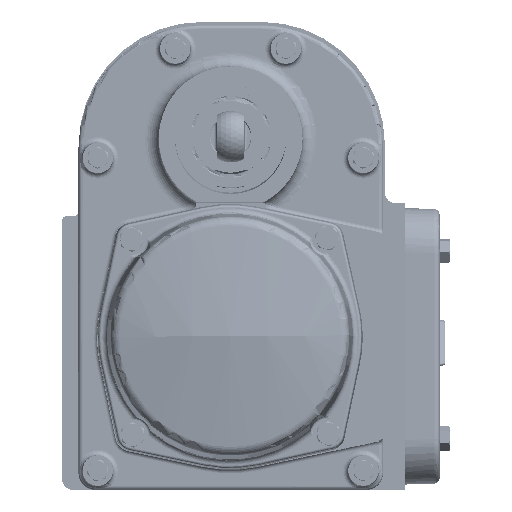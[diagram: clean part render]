
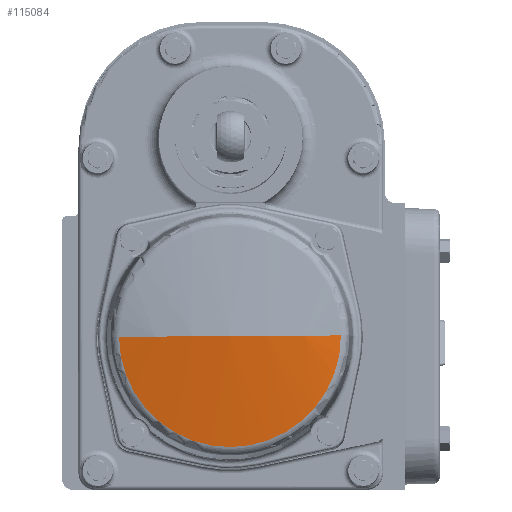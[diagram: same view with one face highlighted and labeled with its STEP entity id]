
A CAD part, top view. The second image highlights one B-rep face of the part: STEP entity #115084.
In plain terms, the highlighted spherical face has radius 279.4 mm.
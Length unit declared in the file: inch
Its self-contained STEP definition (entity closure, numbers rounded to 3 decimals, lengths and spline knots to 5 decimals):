
#1336 = CIRCLE ( 'NONE', #172869, 2.50549 ) ;
#1339 = CIRCLE ( 'NONE', #172872, 11. ) ;
#1341 = CIRCLE ( 'NONE', #172873, 11. ) ;
#4679 = CARTESIAN_POINT ( 'NONE',  ( 0.73401, -1.05759, 13.43811 ) ) ;
#4680 = DIRECTION ( 'NONE',  ( 0., 0., 1. ) ) ;
#4681 = DIRECTION ( 'NONE',  ( -1., -0.006, 0. ) ) ;
#4682 = CARTESIAN_POINT ( 'NONE',  ( 0.73401, -1.05759, 2.72725 ) ) ;
#4683 = DIRECTION ( 'NONE',  ( 0.006, -1., 0. ) ) ;
#4684 = DIRECTION ( 'NONE',  ( 1., 0.006, 0. ) ) ;
#4685 = CARTESIAN_POINT ( 'NONE',  ( 0.73401, -1.05759, 2.72725 ) ) ;
#4686 = DIRECTION ( 'NONE',  ( -0.006, 1., 0. ) ) ;
#4687 = DIRECTION ( 'NONE',  ( -1., -0.006, 0. ) ) ;
#52940 = FACE_OUTER_BOUND ( 'NONE', #118368, .T. ) ;
#52941 = SPHERICAL_SURFACE ( 'NONE', #160990, 11. ) ;
#74878 = CARTESIAN_POINT ( 'NONE',  ( 0.73401, -1.05759, 2.72725 ) ) ;
#74879 = DIRECTION ( 'NONE',  ( 0.006, -1., 0. ) ) ;
#74880 = DIRECTION ( 'NONE',  ( -1., -0.006, 0. ) ) ;
#80248 = EDGE_CURVE ( 'NONE', #104491, #104492, #1336, .T. ) ;
#80252 = EDGE_CURVE ( 'NONE', #104492, #104493, #1339, .T. ) ;
#80256 = EDGE_CURVE ( 'NONE', #104491, #104493, #1341, .T. ) ;
#95651 = ORIENTED_EDGE ( 'NONE', *, *, #80248, .T. ) ;
#95652 = ORIENTED_EDGE ( 'NONE', *, *, #80252, .T. ) ;
#95653 = ORIENTED_EDGE ( 'NONE', *, *, #80256, .F. ) ;
#104491 = VERTEX_POINT ( 'NONE', #106078 ) ;
#104492 = VERTEX_POINT ( 'NONE', #106081 ) ;
#104493 = VERTEX_POINT ( 'NONE', #106083 ) ;
#106078 = CARTESIAN_POINT ( 'NONE',  ( -1.77143, -1.07309, 13.43811 ) ) ;
#106081 = CARTESIAN_POINT ( 'NONE',  ( 3.23945, -1.04209, 13.43811 ) ) ;
#106083 = CARTESIAN_POINT ( 'NONE',  ( 0.73401, -1.05759, 13.72725 ) ) ;
#115084 = ADVANCED_FACE ( 'NONE', ( #52940 ), #52941, .T. ) ;
#118368 = EDGE_LOOP ( 'NONE', ( #95651, #95652, #95653 ) ) ;
#160990 = AXIS2_PLACEMENT_3D ( 'NONE', #74878, #74879, #74880 ) ;
#172869 = AXIS2_PLACEMENT_3D ( 'NONE', #4679, #4680, #4681 ) ;
#172872 = AXIS2_PLACEMENT_3D ( 'NONE', #4682, #4683, #4684 ) ;
#172873 = AXIS2_PLACEMENT_3D ( 'NONE', #4685, #4686, #4687 ) ;
